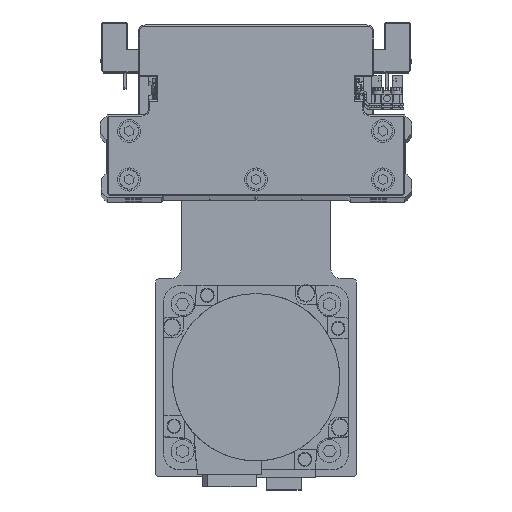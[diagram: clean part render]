
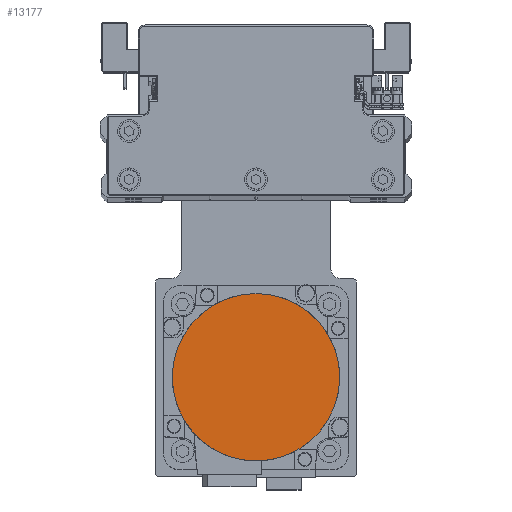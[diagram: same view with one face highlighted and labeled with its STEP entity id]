
A CAD part, top view. The second image highlights one B-rep face of the part: STEP entity #13177.
In plain terms, the highlighted planar face has unit normal (0, 0, 1) as drawn and (0, 0, -1) by its records, which use the part's own axes.
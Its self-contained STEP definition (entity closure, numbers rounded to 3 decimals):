
#430 = DIRECTION ( 'NONE',  ( 1., 0., 0. ) ) ;
#2750 = CARTESIAN_POINT ( 'NONE',  ( 0., 0., -122.2 ) ) ;
#3515 = PLANE ( 'NONE',  #17526 ) ;
#8071 = CARTESIAN_POINT ( 'NONE',  ( 0., -36.3, -122.2 ) ) ;
#10694 = DIRECTION ( 'NONE',  ( 0., 0., 1. ) ) ;
#12001 = CIRCLE ( 'NONE', #34750, 36.3 ) ;
#13177 = ADVANCED_FACE ( 'NONE', ( #31429 ), #3515, .F. ) ;
#14324 = EDGE_LOOP ( 'NONE', ( #31807, #30518 ) ) ;
#15209 = DIRECTION ( 'NONE',  ( 0., 0., 1. ) ) ;
#15963 = CARTESIAN_POINT ( 'NONE',  ( 0., 0., -122.2 ) ) ;
#17098 = CIRCLE ( 'NONE', #22304, 36.3 ) ;
#17526 = AXIS2_PLACEMENT_3D ( 'NONE', #15963, #28378, #430 ) ;
#22304 = AXIS2_PLACEMENT_3D ( 'NONE', #2750, #15209, #27632 ) ;
#23093 = DIRECTION ( 'NONE',  ( 0., 1., 0. ) ) ;
#24055 = EDGE_CURVE ( 'NONE', #28553, #39853, #17098, .T. ) ;
#25423 = CARTESIAN_POINT ( 'NONE',  ( 0., 36.3, -122.2 ) ) ;
#27632 = DIRECTION ( 'NONE',  ( 0., -1., 0. ) ) ;
#28378 = DIRECTION ( 'NONE',  ( 0., 0., 1. ) ) ;
#28553 = VERTEX_POINT ( 'NONE', #8071 ) ;
#30518 = ORIENTED_EDGE ( 'NONE', *, *, #24055, .F. ) ;
#31429 = FACE_OUTER_BOUND ( 'NONE', #14324, .T. ) ;
#31807 = ORIENTED_EDGE ( 'NONE', *, *, #32331, .F. ) ;
#32331 = EDGE_CURVE ( 'NONE', #39853, #28553, #12001, .T. ) ;
#34750 = AXIS2_PLACEMENT_3D ( 'NONE', #38575, #10694, #23093 ) ;
#38575 = CARTESIAN_POINT ( 'NONE',  ( 0., 0., -122.2 ) ) ;
#39853 = VERTEX_POINT ( 'NONE', #25423 ) ;
